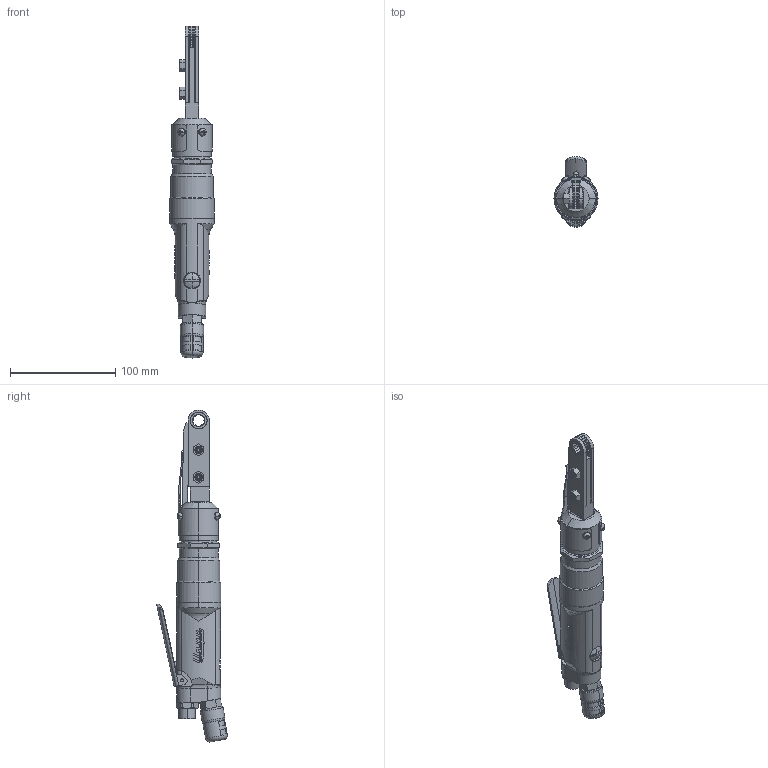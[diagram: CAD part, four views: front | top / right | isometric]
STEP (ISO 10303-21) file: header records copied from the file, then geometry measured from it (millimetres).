
FILE_DESCRIPTION (( 'STEP AP203' ), '1' );
FILE_NAME ('URW-6.STEP', '2006-02-14T00:53:00', ( '' ), ( '' ), 'SwSTEP 2.0', 'SolidWorks 2004073', '' );
FILE_SCHEMA (( 'CONFIG_CONTROL_DESIGN' ));
Length unit declared in the file: millimetre
Products named in the file (7): 2000255_蹬怮椔; 2000295_蹬怮椔; URW-6; 2006565_蹬怮椔; 2003815_蹬怮椔; 9703210_蹬怮椔; 4381073_蹬怮椔
Assembly tree (6 placements, depth 2):
  URW-6
    2000295_蹬怮椔
    2006565_蹬怮椔
    2003815_蹬怮椔
    2000255_蹬怮椔
    9703210_蹬怮椔
    4381073_蹬怮椔
Bounding box: 42 x 67.31 x 315.99 mm (x, y, z)
Volume: 257592.6 mm3; surface area: 51282.8 mm2
Topology: 6 solids, 6 shells, 710 faces, 1902 edges, 1229 vertices
Faces by surface type: plane 364, cylinder 232, cone 49, bspline 34, torus 25, sphere 6
Entity records: 26990 total; most frequent: CARTESIAN_POINT 9240, ORIENTED_EDGE 3794, DIRECTION 3255, EDGE_CURVE 1897, VERTEX_POINT 1229, AXIS2_PLACEMENT_3D 1146, VECTOR 963, LINE 963
